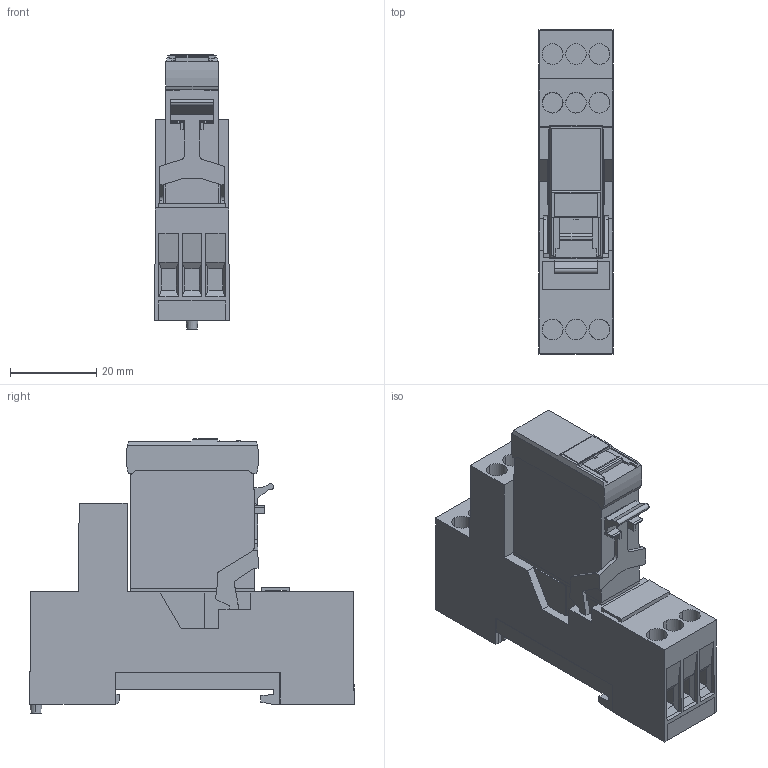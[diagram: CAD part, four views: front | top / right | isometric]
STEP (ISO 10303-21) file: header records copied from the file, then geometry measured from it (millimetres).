
FILE_DESCRIPTION (( 'STEP AP214' ), '1' );
FILE_NAME ('R12_plus_S12-GR.STEP', '2024-04-04T08:57:58', ( '' ), ( '' ), 'SwSTEP 2.0', 'SolidWorks 2022', '' );
FILE_SCHEMA (( 'AUTOMOTIVE_DESIGN' ));
Length unit declared in the file: millimetre
Products named in the file (1): R12_plus_S12-GR
Bounding box: 17.2 x 75.03 x 63.4 mm (x, y, z)
Volume: 43729.7 mm3; surface area: 16403.6 mm2
Topology: 1 solids, 25 shells, 847 faces, 2229 edges, 1435 vertices
Faces by surface type: plane 779, cylinder 58, cone 7, bspline 2, sphere 1
Entity records: 34991 total; most frequent: CARTESIAN_POINT 4754, ORIENTED_EDGE 4458, DIRECTION 3983, EDGE_CURVE 2229, VECTOR 2065, LINE 2065, VERTEX_POINT 1435, AXIS2_PLACEMENT_3D 959
